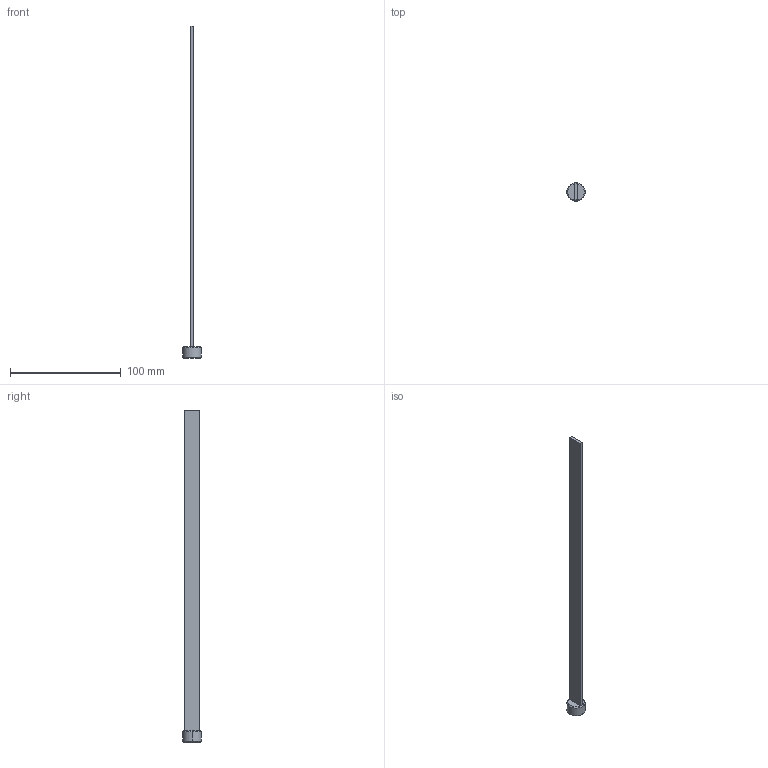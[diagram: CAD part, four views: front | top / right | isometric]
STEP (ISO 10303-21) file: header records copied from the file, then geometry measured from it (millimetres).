
FILE_DESCRIPTION (( 'STEP AP214' ), '1' );
FILE_NAME ('BruyRubio_BR965-3_8-300.STEP', '2019-12-17T14:41:39', ( '' ), ( '' ), 'SwSTEP 2.0', 'SolidWorks 2017', '' );
FILE_SCHEMA (( 'AUTOMOTIVE_DESIGN' ));
Length unit declared in the file: millimetre
Products named in the file (1): BruyRubio_BR965-3_8-300
Bounding box: 16.66 x 16.66 x 300 mm (x, y, z)
Volume: 12414.9 mm3; surface area: 11810.5 mm2
Topology: 3 solids, 3 shells, 38 faces, 94 edges, 60 vertices
Faces by surface type: plane 28, cylinder 6, cone 4
Entity records: 1594 total; most frequent: CARTESIAN_POINT 205, DIRECTION 190, ORIENTED_EDGE 188, EDGE_CURVE 94, VECTOR 68, LINE 68, AXIS2_PLACEMENT_3D 61, VERTEX_POINT 60
